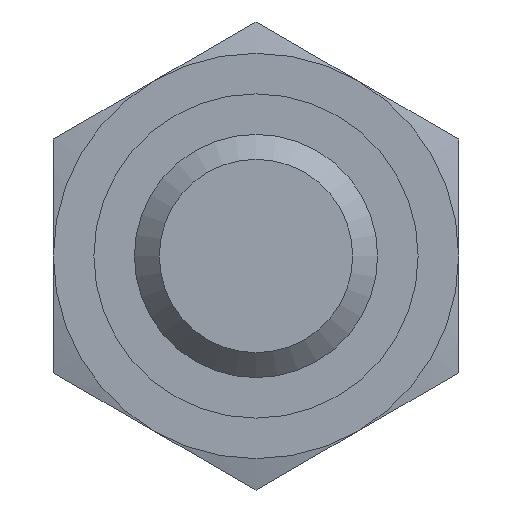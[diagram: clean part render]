
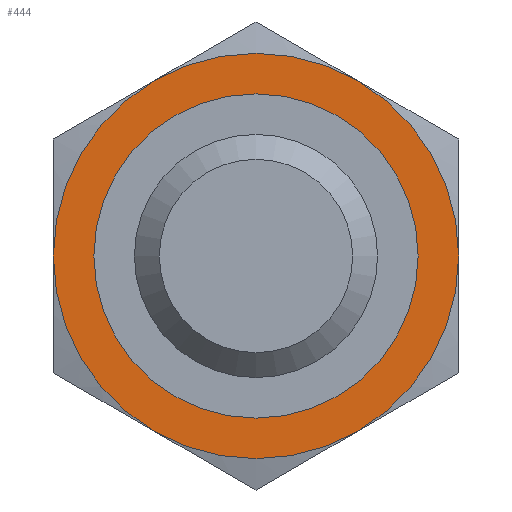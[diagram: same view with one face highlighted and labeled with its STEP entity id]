
A CAD part, front view. The second image highlights one B-rep face of the part: STEP entity #444.
In plain terms, the highlighted planar face has unit normal (0, -1, 0).
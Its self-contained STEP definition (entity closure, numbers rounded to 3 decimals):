
#39=PLANE('',#499);
#54=CIRCLE('',#488,5.);
#55=CIRCLE('',#490,5.);
#56=CIRCLE('',#492,5.);
#57=CIRCLE('',#494,5.);
#58=CIRCLE('',#496,5.);
#59=CIRCLE('',#498,5.);
#60=CIRCLE('',#500,3.95);
#100=ORIENTED_EDGE('',*,*,#216,.F.);
#101=ORIENTED_EDGE('',*,*,#207,.T.);
#102=ORIENTED_EDGE('',*,*,#210,.T.);
#103=ORIENTED_EDGE('',*,*,#213,.T.);
#104=ORIENTED_EDGE('',*,*,#200,.T.);
#105=ORIENTED_EDGE('',*,*,#201,.T.);
#106=ORIENTED_EDGE('',*,*,#204,.T.);
#200=EDGE_CURVE('',#256,#258,#54,.T.);
#201=EDGE_CURVE('',#258,#259,#55,.T.);
#204=EDGE_CURVE('',#259,#261,#56,.T.);
#207=EDGE_CURVE('',#261,#263,#57,.T.);
#210=EDGE_CURVE('',#263,#265,#58,.T.);
#213=EDGE_CURVE('',#265,#256,#59,.T.);
#216=EDGE_CURVE('',#268,#268,#60,.T.);
#256=VERTEX_POINT('',#693);
#258=VERTEX_POINT('',#699);
#259=VERTEX_POINT('',#703);
#261=VERTEX_POINT('',#715);
#263=VERTEX_POINT('',#727);
#265=VERTEX_POINT('',#739);
#268=VERTEX_POINT('',#762);
#326=EDGE_LOOP('',(#100));
#327=EDGE_LOOP('',(#101,#102,#103,#104,#105,#106));
#378=FACE_BOUND('',#326,.T.);
#379=FACE_BOUND('',#327,.T.);
#444=ADVANCED_FACE('',(#378,#379),#39,.F.);
#488=AXIS2_PLACEMENT_3D('',#700,#555,#556);
#490=AXIS2_PLACEMENT_3D('',#702,#559,#560);
#492=AXIS2_PLACEMENT_3D('',#714,#563,#564);
#494=AXIS2_PLACEMENT_3D('',#726,#567,#568);
#496=AXIS2_PLACEMENT_3D('',#738,#571,#572);
#498=AXIS2_PLACEMENT_3D('',#750,#575,#576);
#499=AXIS2_PLACEMENT_3D('',#760,#577,#578);
#500=AXIS2_PLACEMENT_3D('',#761,#579,#580);
#555=DIRECTION('',(0.,-1.,0.));
#556=DIRECTION('',(0.,0.,-1.));
#559=DIRECTION('',(0.,-1.,0.));
#560=DIRECTION('',(0.,0.,-1.));
#563=DIRECTION('',(0.,-1.,0.));
#564=DIRECTION('',(0.,0.,-1.));
#567=DIRECTION('',(0.,-1.,0.));
#568=DIRECTION('',(0.,0.,-1.));
#571=DIRECTION('',(0.,-1.,0.));
#572=DIRECTION('',(0.,0.,-1.));
#575=DIRECTION('',(0.,-1.,0.));
#576=DIRECTION('',(0.,0.,-1.));
#577=DIRECTION('',(0.,1.,0.));
#578=DIRECTION('',(0.,0.,1.));
#579=DIRECTION('',(0.,-1.,0.));
#580=DIRECTION('',(0.,0.,-1.));
#693=CARTESIAN_POINT('',(-2.5,1.5,4.33));
#699=CARTESIAN_POINT('',(-5.,1.5,0.));
#700=CARTESIAN_POINT('',(0.,1.5,0.));
#702=CARTESIAN_POINT('',(0.,1.5,0.));
#703=CARTESIAN_POINT('',(-2.5,1.5,-4.33));
#714=CARTESIAN_POINT('',(0.,1.5,0.));
#715=CARTESIAN_POINT('',(2.5,1.5,-4.33));
#726=CARTESIAN_POINT('',(0.,1.5,0.));
#727=CARTESIAN_POINT('',(5.,1.5,0.));
#738=CARTESIAN_POINT('',(0.,1.5,0.));
#739=CARTESIAN_POINT('',(2.5,1.5,4.33));
#750=CARTESIAN_POINT('',(0.,1.5,0.));
#760=CARTESIAN_POINT('',(5.,1.5,0.));
#761=CARTESIAN_POINT('',(0.,1.5,0.));
#762=CARTESIAN_POINT('',(0.,1.5,-3.95));
